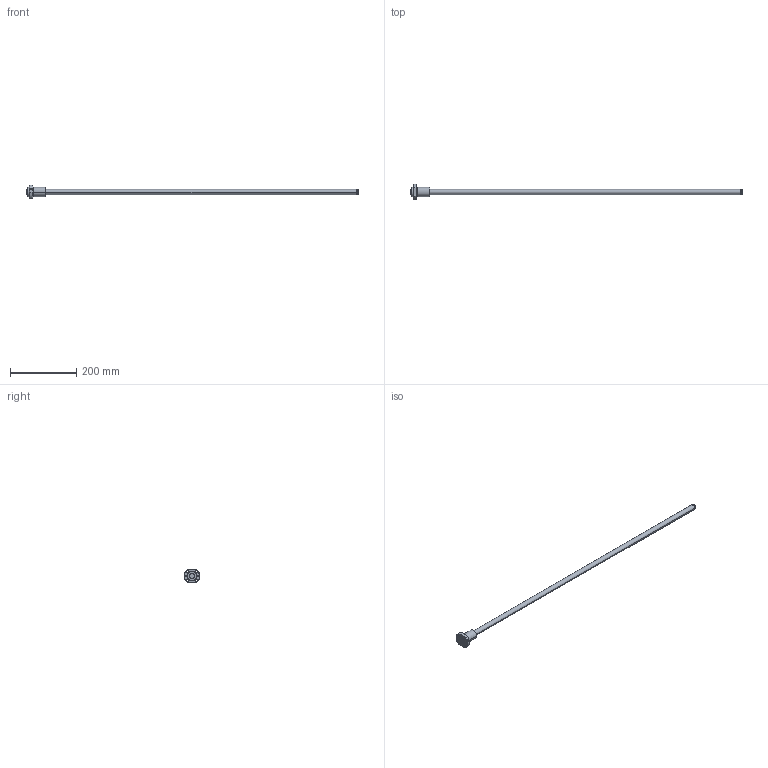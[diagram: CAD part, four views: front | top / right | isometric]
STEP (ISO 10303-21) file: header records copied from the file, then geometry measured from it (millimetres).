
FILE_DESCRIPTION( ( '' ), '1' );
FILE_NAME( 'C:/Users/v3-771-32344/Desktop/EBB STEP/EBB 1605-4 RRNone+1000L C7(935070)-ebb3.stp', '2015-08-27T13:36:09', ( '' ), ( '' ), ' ', ' ', ' ' );
FILE_SCHEMA( ( 'CONFIG_CONTROL_DESIGN' ) );
Length unit declared in the file: millimetre
Products named in the file (2): 1; 2
Bounding box: 1000 x 48 x 40 mm (x, y, z)
Volume: 232280.2 mm3; surface area: 62977 mm2
Topology: 2 solids, 2 shells, 67 faces, 155 edges, 99 vertices
Faces by surface type: cylinder 36, cone 18, plane 13
Entity records: 2167 total; most frequent: CARTESIAN_POINT 473, DIRECTION 366, ORIENTED_EDGE 310, AXIS2_PLACEMENT_3D 155, EDGE_CURVE 155, VERTEX_POINT 99, EDGE_LOOP 90, CIRCLE 86
